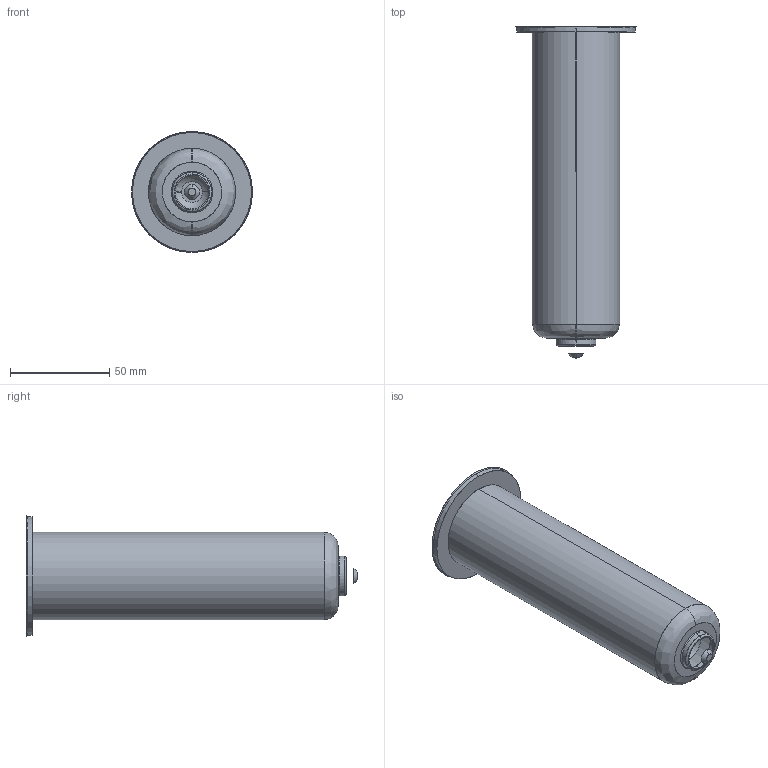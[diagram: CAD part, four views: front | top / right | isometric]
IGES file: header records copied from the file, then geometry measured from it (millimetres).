
Start section: SolidWorks IGES file using analytic representation for surfaces
Global section: file name: C:\Documents and Settings\ws-20\Desktop\TEM\Sede UGEP6007-M-A C-164 L-189 Ød-4.0.IGS; native system: SolidWorks 2012; preprocessor: SolidWorks 2012; author: ws-20; date: 120427.103221; units: millimetre
Bounding box: 61 x 167.42 x 61 mm (x, y, z)
Surface area: 27596.9 mm2 (no closed solid volume)
Topology: 0 solids, 0 shells, 25 faces, 468 edges, 468 vertices
Faces by surface type: revolution 16, bspline 9
